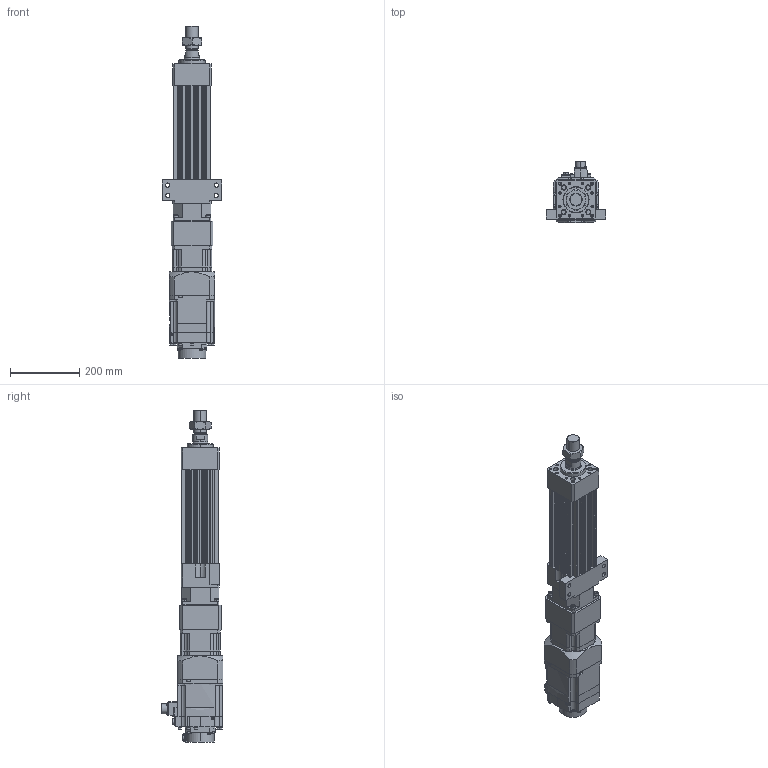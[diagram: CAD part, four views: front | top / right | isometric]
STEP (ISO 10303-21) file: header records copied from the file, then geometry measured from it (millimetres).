
FILE_DESCRIPTION (( 'STEP AP203' ), '1' );
FILE_NAME ('HES110NS(HS)-S100-W015G00-M-FFC.STEP', '2026-06-10T06:01:31', ( 'tms' ), ( '' ), 'SwSTEP 2.0', 'SolidWorks 2013', '' );
FILE_SCHEMA (( 'CONFIG_CONTROL_DESIGN' ));
Length unit declared in the file: millimetre
Products named in the file (8): HES110-FFC-100; AB1151; HES110NS(HS)-S100-W015G00-M-FFC; M36X1.5P; HES110-S-G120; HES110-M-ROD-100; HG-SR152B; AB1152
Assembly tree (7 placements, depth 2):
  HES110NS(HS)-S100-W015G00-M-FFC
    HES110-FFC-100
    HES110-M-ROD-100
    M36X1.5P
    HES110-S-G120
    AB1151
    AB1152
    HG-SR152B
Bounding box: 170 x 177.49 x 956 mm (x, y, z)
Volume: 6593558.7 mm3; surface area: 818854.7 mm2
Topology: 5 solids, 12 shells, 1233 faces, 3122 edges, 2017 vertices
Faces by surface type: cylinder 570, plane 555, cone 94, bspline 10, torus 4
Entity records: 38913 total; most frequent: CARTESIAN_POINT 7463, DIRECTION 6733, ORIENTED_EDGE 6168, EDGE_CURVE 3094, AXIS2_PLACEMENT_3D 2500, VERTEX_POINT 2017, VECTOR 1733, LINE 1733
